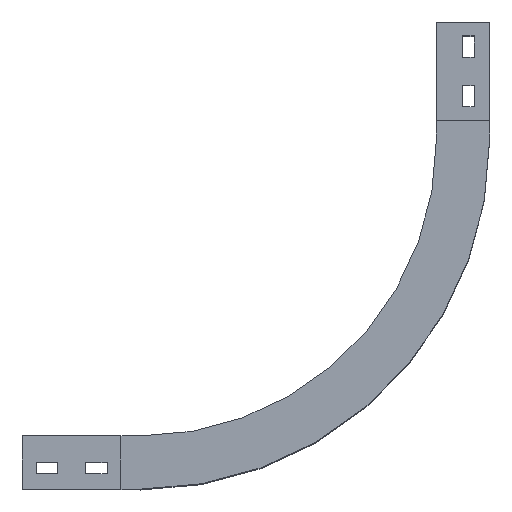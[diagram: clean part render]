
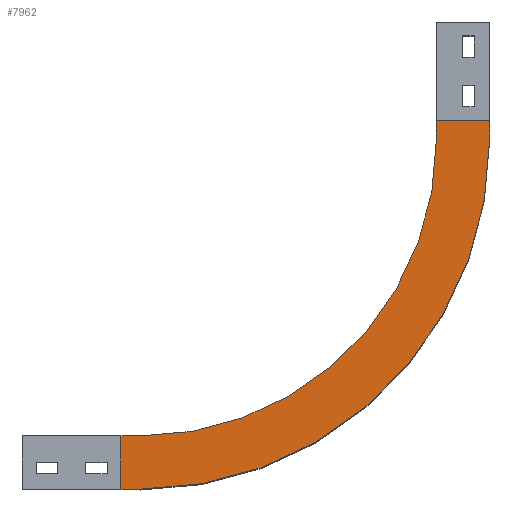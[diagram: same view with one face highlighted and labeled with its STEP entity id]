
A CAD part, top view. The second image highlights one B-rep face of the part: STEP entity #7962.
In plain terms, the highlighted planar face has unit normal (0, 0, 1).
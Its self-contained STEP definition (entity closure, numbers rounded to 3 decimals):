
#539=CIRCLE('',#8535,354.);
#540=CIRCLE('',#8536,300.);
#1082=FACE_OUTER_BOUND('',#1624,.T.);
#1624=EDGE_LOOP('',(#7279,#7280,#7281,#7282,#7283,#7284,#7285,#7286));
#2399=LINE('',#17348,#3195);
#2403=LINE('',#17356,#3199);
#2404=LINE('',#17360,#3200);
#2405=LINE('',#17362,#3201);
#2406=LINE('',#17364,#3202);
#2407=LINE('',#17367,#3203);
#3195=VECTOR('',#10417,304.8);
#3199=VECTOR('',#10423,304.8);
#3200=VECTOR('',#10426,304.8);
#3201=VECTOR('',#10427,304.8);
#3202=VECTOR('',#10428,304.8);
#3203=VECTOR('',#10431,304.8);
#3955=VERTEX_POINT('',#17346);
#3956=VERTEX_POINT('',#17347);
#3959=VERTEX_POINT('',#17355);
#3960=VERTEX_POINT('',#17357);
#3961=VERTEX_POINT('',#17359);
#3962=VERTEX_POINT('',#17361);
#3963=VERTEX_POINT('',#17363);
#3964=VERTEX_POINT('',#17365);
#5067=EDGE_CURVE('',#3955,#3956,#2399,.T.);
#5071=EDGE_CURVE('',#3955,#3959,#2403,.T.);
#5072=EDGE_CURVE('',#3959,#3960,#539,.T.);
#5073=EDGE_CURVE('',#3960,#3961,#2404,.T.);
#5074=EDGE_CURVE('',#3961,#3962,#2405,.T.);
#5075=EDGE_CURVE('',#3962,#3963,#2406,.T.);
#5076=EDGE_CURVE('',#3963,#3964,#540,.T.);
#5077=EDGE_CURVE('',#3964,#3956,#2407,.T.);
#7279=ORIENTED_EDGE('',*,*,#5067,.F.);
#7280=ORIENTED_EDGE('',*,*,#5071,.T.);
#7281=ORIENTED_EDGE('',*,*,#5072,.T.);
#7282=ORIENTED_EDGE('',*,*,#5073,.T.);
#7283=ORIENTED_EDGE('',*,*,#5074,.T.);
#7284=ORIENTED_EDGE('',*,*,#5075,.T.);
#7285=ORIENTED_EDGE('',*,*,#5076,.T.);
#7286=ORIENTED_EDGE('',*,*,#5077,.T.);
#7578=PLANE('',#8534);
#7962=ADVANCED_FACE('',(#1082),#7578,.T.);
#8534=AXIS2_PLACEMENT_3D('',#17354,#10421,#10422);
#8535=AXIS2_PLACEMENT_3D('',#17358,#10424,#10425);
#8536=AXIS2_PLACEMENT_3D('',#17366,#10429,#10430);
#10417=DIRECTION('',(0.,1.,0.));
#10421=DIRECTION('center_axis',(0.,0.,1.));
#10422=DIRECTION('ref_axis',(1.,0.,0.));
#10423=DIRECTION('',(1.,0.,0.));
#10424=DIRECTION('center_axis',(0.,0.,1.));
#10425=DIRECTION('ref_axis',(0.,-1.,0.));
#10426=DIRECTION('',(0.,1.,0.));
#10427=DIRECTION('',(-1.,0.,0.));
#10428=DIRECTION('',(0.,-1.,0.));
#10429=DIRECTION('center_axis',(0.,0.,-1.));
#10430=DIRECTION('ref_axis',(0.,-1.,0.));
#10431=DIRECTION('',(-1.,0.,0.));
#17346=CARTESIAN_POINT('',(-347.,-27.,255.5));
#17347=CARTESIAN_POINT('',(-347.,27.,255.5));
#17348=CARTESIAN_POINT('',(-347.,-27.,255.5));
#17354=CARTESIAN_POINT('Origin',(-347.,-27.,255.5));
#17355=CARTESIAN_POINT('',(-327.,-27.,255.5));
#17356=CARTESIAN_POINT('',(-347.,-27.,255.5));
#17357=CARTESIAN_POINT('',(27.,327.,255.5));
#17358=CARTESIAN_POINT('Origin',(-327.,327.,255.5));
#17359=CARTESIAN_POINT('',(27.,347.,255.5));
#17360=CARTESIAN_POINT('',(27.,327.,255.5));
#17361=CARTESIAN_POINT('',(-27.,347.,255.5));
#17362=CARTESIAN_POINT('',(-27.,347.,255.5));
#17363=CARTESIAN_POINT('',(-27.,327.,255.5));
#17364=CARTESIAN_POINT('',(-27.,327.,255.5));
#17365=CARTESIAN_POINT('',(-327.,27.,255.5));
#17366=CARTESIAN_POINT('Origin',(-327.,327.,255.5));
#17367=CARTESIAN_POINT('',(-347.,27.,255.5));
